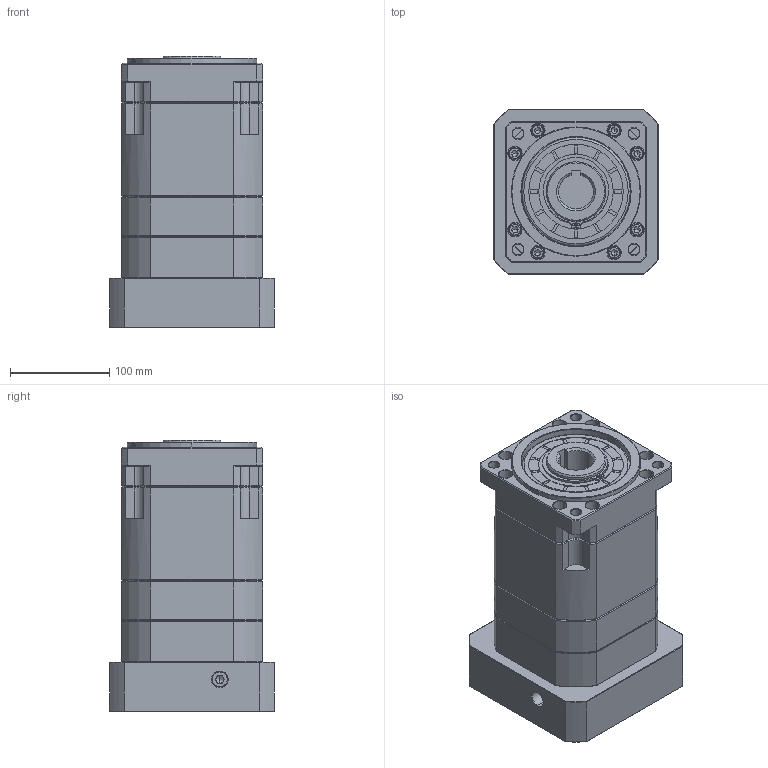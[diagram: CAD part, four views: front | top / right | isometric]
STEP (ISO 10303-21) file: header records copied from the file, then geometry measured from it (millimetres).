
FILE_DESCRIPTION (( 'STEP AP214' ), '1' );
FILE_NAME ('ZB142A-K35-L3-32-150-185-M10.step', '2023-03-17T10:50:34', ( '' ), ( '' ), 'SwSTEP 2.0', 'SolidWorks 2016', '' );
FILE_SCHEMA (( 'AUTOMOTIVE_DESIGN' ));
Length unit declared in the file: millimetre
Products named in the file (1): ZB142A-K35-L3-32-150-185-M10
Bounding box: 166 x 166 x 273.2 mm (x, y, z)
Volume: 4898717 mm3; surface area: 339701.8 mm2
Topology: 6 solids, 6 shells, 2007 faces, 5297 edges, 3388 vertices
Faces by surface type: plane 928, cylinder 399, cone 354, bspline 306, torus 20
Entity records: 107828 total; most frequent: CARTESIAN_POINT 38512, ORIENTED_EDGE 10538, DIRECTION 8714, EDGE_CURVE 5269, VERTEX_POINT 3388, LINE 3244, VECTOR 3244, AXIS2_PLACEMENT_3D 2735
